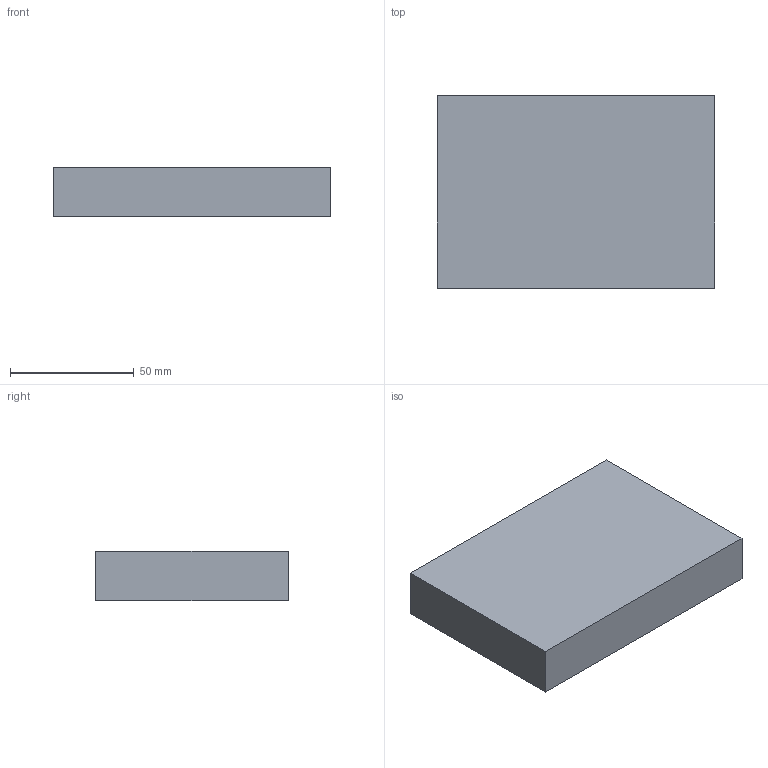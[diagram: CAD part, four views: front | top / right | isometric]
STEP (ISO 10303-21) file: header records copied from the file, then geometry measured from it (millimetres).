
FILE_SCHEMA(('CONFIG_CONTROL_DESIGN'));
Length unit declared in the file: millimetre
Products named in the file (1): Produkt1
Assembly tree (1 placements, depth 2):
  Produkt1
    #56
Bounding box: 111.9 x 77.61 x 20 mm (x, y, z)
Volume: 173687.1 mm3; surface area: 24949.1 mm2
Topology: 1 solids, 1 shells, 6 faces, 12 edges, 8 vertices
Faces by surface type: plane 6
Entity records: 220 total; most frequent: CARTESIAN_POINT 28, DIRECTION 28, ORIENTED_EDGE 24, VECTOR 12, EDGE_CURVE 12, LINE 12, AXIS2_PLACEMENT_3D 8, VERTEX_POINT 8
